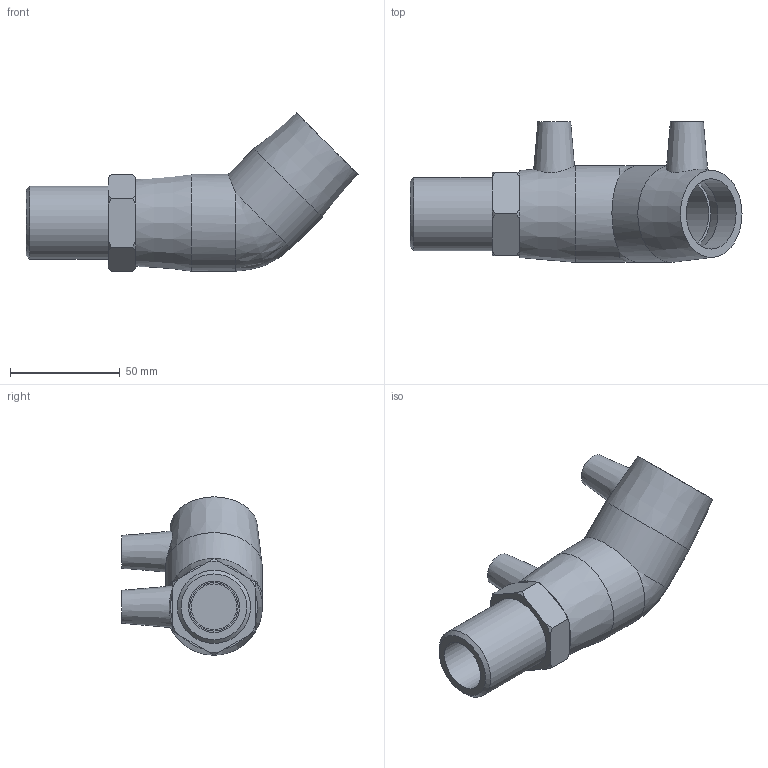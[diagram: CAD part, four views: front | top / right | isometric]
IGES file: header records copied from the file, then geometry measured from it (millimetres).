
Global section: file name: 492604032010N.ipt; native system: Autodesk Inventor 2015; preprocessor: unknown; author: KIM; date: 20200202.122413; units: millimetre
Bounding box: 151 x 64 x 72.04 mm (x, y, z)
Volume: 127759 mm3; surface area: 38544.5 mm2
Topology: 1 solids, 2 shells, 59 faces, 142 edges, 97 vertices
Faces by surface type: plane 24, cone 17, revolution 10, cylinder 7, bspline 1
Full cylindrical faces by diameter (mm): 4 x2, 32 x2, 33.249 x1, 44 x2
